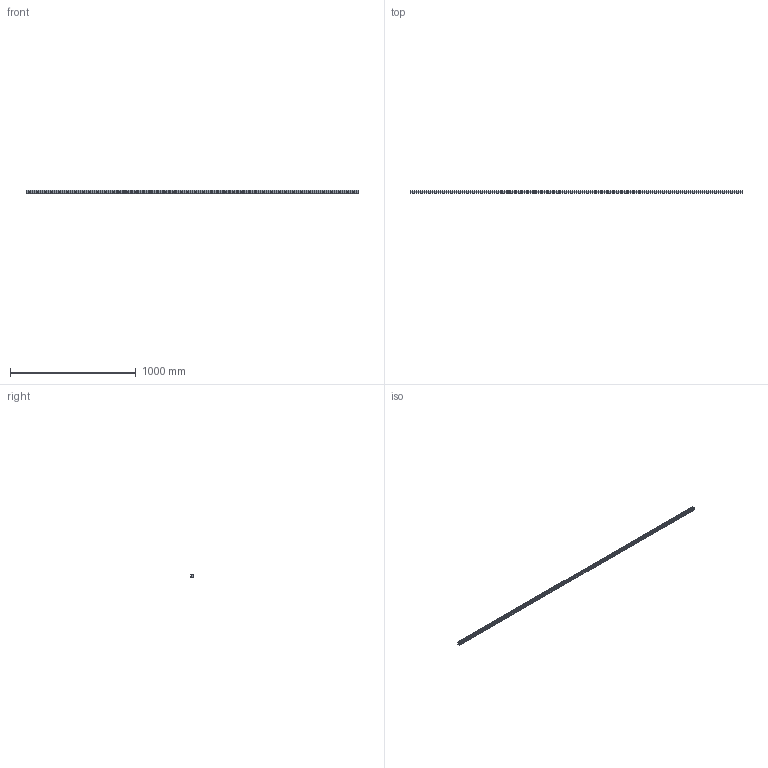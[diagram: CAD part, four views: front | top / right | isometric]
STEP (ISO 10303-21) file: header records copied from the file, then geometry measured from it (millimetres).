
FILE_DESCRIPTION (( 'STEP AP203' ), '1' );
FILE_NAME ('L1018.25R-2640.step', '2023-08-06T10:43:15', ( '' ), ( '' ), 'SwSTEP 2.0', 'SolidWorks 2019', '' );
FILE_SCHEMA (( 'CONFIG_CONTROL_DESIGN' ));
Length unit declared in the file: millimetre
Products named in the file (1): L1018.25R-2640
Bounding box: 2640 x 21.8 x 25 mm (x, y, z)
Volume: 1097944.6 mm3; surface area: 262997.1 mm2
Topology: 1 solids, 1 shells, 425 faces, 961 edges, 538 vertices
Faces by surface type: cylinder 179, cone 176, plane 70
Entity records: 11294 total; most frequent: DIRECTION 2171, CARTESIAN_POINT 1837, ORIENTED_EDGE 1746, EDGE_CURVE 873, AXIS2_PLACEMENT_3D 872, VERTEX_POINT 538, EDGE_LOOP 513, CIRCLE 446
